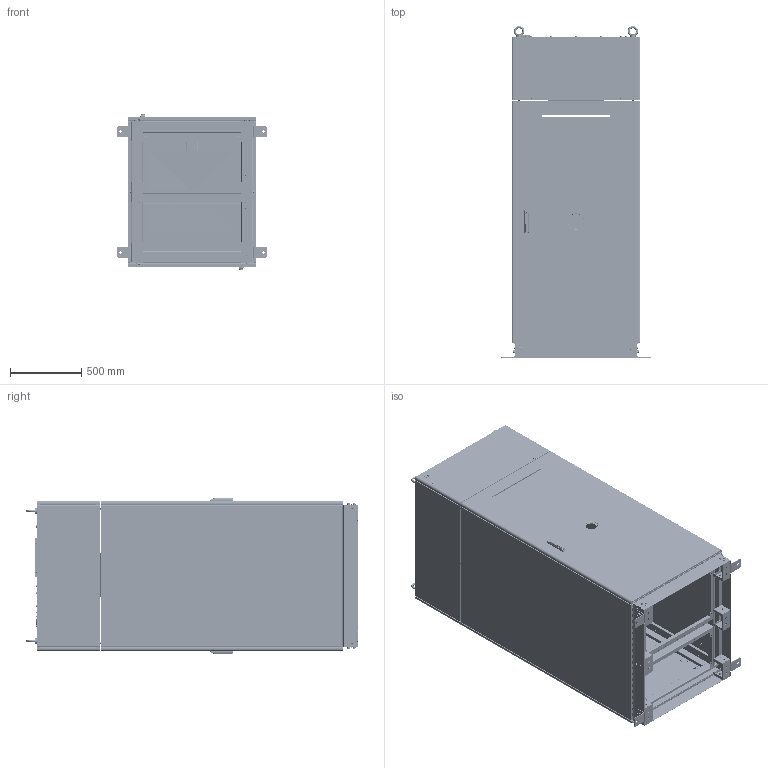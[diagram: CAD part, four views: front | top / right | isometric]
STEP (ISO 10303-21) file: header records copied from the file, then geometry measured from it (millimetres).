
FILE_DESCRIPTION((''),'2;1');
FILE_NAME('AUT41180820_ZZ_ASM','2025-10-30T22:03:07',('A21695'),(''),'CREO PARAMETRIC BY PTC INC, 2019080','CREO PARAMETRIC BY PTC INC, 2019080','');
FILE_SCHEMA(('AP242_MANAGED_MODEL_BASED_3D_ENGINEERING_MIM_LF { 1 0 10303 442 1 1 4 }'));
Products named in the file (212): AUT81490947; NZS-M10-3; CLS-M6-3; AUT81490947_ASM; AUT81490948; NZS-M8-3; CLS-M4-2; AUT81490948_ASM; AUT81490963; AUT81490963_ASM; AUT81490973; AUT81490973_ASM; AUT81490969; AUT81490969_ASM; AUT81490950; AUT81490950_ASM; AUT81490951; AUT81490951_ASM; AUT81491206; AUT81491206_ASM; AUT81491207; AUT81491207_ASM; AUT81491213; AUT81491213_ASM; AUT61490507_ASM; AUT81490952; AUT81490952_ASM; AUT81490956; CLS-M4-1; AUT81490956_ASM; AUT81182189; AUT81490904; AUT61490508_ASM; M10X20_GB5783_; D10_GB9074_26_; D10_GB9074_24_; GB9074_17_M10X20_S_ASM; AUT81491041; AUT81491041_ASM; AUT81491039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
Assembly tree (804 placements, depth 9):
  AUT41180820_ZZ_ASM
    AUT41180820_ASM
      AUT61490509_ASM
        AUT61490505_ASM
          AUT61490507_ASM
            AUT81490947_ASM  x2
              AUT81490947
              NZS-M10-3
              CLS-M6-3
            AUT81490948_ASM  x2
              AUT81490948
              NZS-M10-3
              NZS-M8-3
              CLS-M4-2
            AUT81490963_ASM  x2
              AUT81490963
            AUT81490973_ASM
              AUT81490973
            AUT81490969_ASM
              AUT81490969
            AUT81490950_ASM  x4
              AUT81490950
              CLS-M6-3
              NZS-M10-3
            AUT81490951_ASM  x2
              AUT81490951
              CLS-M6-3
            AUT81491206_ASM  x2
              AUT81491206
            AUT81491207_ASM  x2
              AUT81491207
            AUT81491213_ASM
              AUT81491213
              CLS-M6-3  x8
          AUT61490508_ASM
            AUT81490952_ASM
              AUT81490952
            AUT81490956_ASM
              AUT81490956
              CLS-M4-1  x2
            AUT81182189  x3
            AUT81490904  x2
          GB9074_17_M10X20_S_ASM  x16
            M10X20_GB5783_
            D10_GB9074_26_
            D10_GB9074_24_
          AUT81491041_ASM
            AUT81491041
          AUT81491039_ASM
            AUT81491039
          AUT81490965  x8
          AUT81491040_ASM
            AUT81491040
          AUT81491038_ASM
            AUT81491038
          AUT81490972  x8
        AUT81182153  x4
        AUT81182151  x2
        AUT81182152  x2
        M6X16_GB9074_13_ASM  x20
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Bounding box: 1051 x 2322.5 x 1097.8 mm (x, y, z)
Volume: 25161580.5 mm3; surface area: 29853071.3 mm2
Topology: 1444 solids, 1444 shells, 38918 faces, 87880 edges, 53073 vertices
Faces by surface type: plane 19061, cylinder 10831, cone 5628, torus 1890, bspline 1218, sphere 188, extrusion 98, revolution 4
Entity records: 337745 total; most frequent: CARTESIAN_POINT 77822, DIRECTION 43406, ORIENTED_EDGE 38796, EDGE_CURVE 19398, AXIS2_PLACEMENT_3D 15993, VERTEX_POINT 12004, VECTOR 11418, LINE 11369
